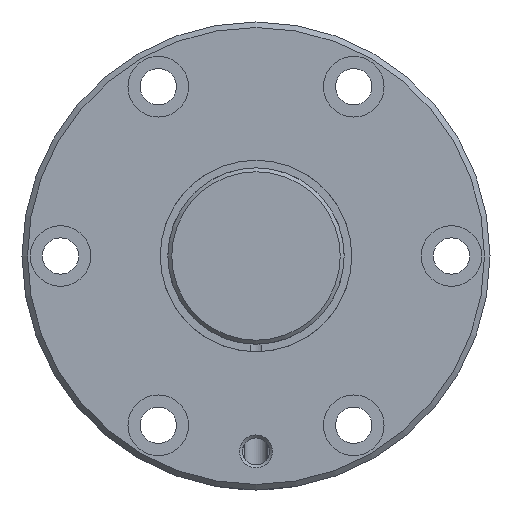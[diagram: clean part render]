
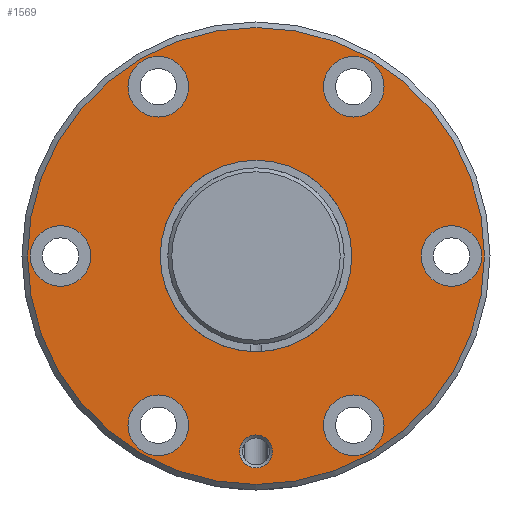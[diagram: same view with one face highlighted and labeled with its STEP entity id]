
A CAD part, left-side view. The second image highlights one B-rep face of the part: STEP entity #1569.
In plain terms, the highlighted planar face has unit normal (-1, 0, 0).
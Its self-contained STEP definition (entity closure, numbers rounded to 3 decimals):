
#267=ORIENTED_EDGE('',*,*,#629,.T.);
#268=ORIENTED_EDGE('',*,*,#661,.T.);
#269=ORIENTED_EDGE('',*,*,#662,.T.);
#270=ORIENTED_EDGE('',*,*,#663,.T.);
#271=ORIENTED_EDGE('',*,*,#664,.T.);
#272=ORIENTED_EDGE('',*,*,#665,.T.);
#273=ORIENTED_EDGE('',*,*,#666,.T.);
#274=ORIENTED_EDGE('',*,*,#667,.T.);
#275=ORIENTED_EDGE('',*,*,#660,.F.);
#629=EDGE_CURVE('',#830,#830,#974,.T.);
#660=EDGE_CURVE('',#861,#861,#977,.T.);
#661=EDGE_CURVE('',#862,#862,#978,.F.);
#662=EDGE_CURVE('',#863,#863,#979,.T.);
#663=EDGE_CURVE('',#864,#864,#980,.T.);
#664=EDGE_CURVE('',#865,#865,#981,.T.);
#665=EDGE_CURVE('',#866,#866,#982,.T.);
#666=EDGE_CURVE('',#867,#867,#983,.T.);
#667=EDGE_CURVE('',#868,#868,#984,.T.);
#830=VERTEX_POINT('',#2611);
#861=VERTEX_POINT('',#2757);
#862=VERTEX_POINT('',#2760);
#863=VERTEX_POINT('',#2762);
#864=VERTEX_POINT('',#2764);
#865=VERTEX_POINT('',#2766);
#866=VERTEX_POINT('',#2768);
#867=VERTEX_POINT('',#2770);
#868=VERTEX_POINT('',#2772);
#974=CIRCLE('',#1714,17.4);
#977=CIRCLE('',#1721,41.5);
#978=CIRCLE('',#1723,5.5);
#979=CIRCLE('',#1724,3.);
#980=CIRCLE('',#1725,5.5);
#981=CIRCLE('',#1726,5.5);
#982=CIRCLE('',#1727,5.5);
#983=CIRCLE('',#1728,5.5);
#984=CIRCLE('',#1729,5.5);
#1132=EDGE_LOOP('',(#267));
#1133=EDGE_LOOP('',(#268));
#1134=EDGE_LOOP('',(#269));
#1135=EDGE_LOOP('',(#270));
#1136=EDGE_LOOP('',(#271));
#1137=EDGE_LOOP('',(#272));
#1138=EDGE_LOOP('',(#273));
#1139=EDGE_LOOP('',(#274));
#1140=EDGE_LOOP('',(#275));
#1334=FACE_BOUND('',#1132,.T.);
#1335=FACE_BOUND('',#1133,.T.);
#1336=FACE_BOUND('',#1134,.T.);
#1337=FACE_BOUND('',#1135,.T.);
#1338=FACE_BOUND('',#1136,.T.);
#1339=FACE_BOUND('',#1137,.T.);
#1340=FACE_BOUND('',#1138,.T.);
#1341=FACE_BOUND('',#1139,.T.);
#1342=FACE_BOUND('',#1140,.T.);
#1507=PLANE('',#1722);
#1569=ADVANCED_FACE('',(#1334,#1335,#1336,#1337,#1338,#1339,#1340,#1341,
#1342),#1507,.T.);
#1714=AXIS2_PLACEMENT_3D('',#2610,#1994,#1995);
#1721=AXIS2_PLACEMENT_3D('',#2756,#2028,#2029);
#1722=AXIS2_PLACEMENT_3D('',#2758,#2030,#2031);
#1723=AXIS2_PLACEMENT_3D('',#2759,#2032,#2033);
#1724=AXIS2_PLACEMENT_3D('',#2761,#2034,#2035);
#1725=AXIS2_PLACEMENT_3D('',#2763,#2036,#2037);
#1726=AXIS2_PLACEMENT_3D('',#2765,#2038,#2039);
#1727=AXIS2_PLACEMENT_3D('',#2767,#2040,#2041);
#1728=AXIS2_PLACEMENT_3D('',#2769,#2042,#2043);
#1729=AXIS2_PLACEMENT_3D('',#2771,#2044,#2045);
#1994=DIRECTION('',(1.,0.,0.));
#1995=DIRECTION('',(0.,0.,-1.));
#2028=DIRECTION('',(1.,0.,0.));
#2029=DIRECTION('',(0.,0.,-1.));
#2030=DIRECTION('',(-1.,0.,0.));
#2031=DIRECTION('',(0.,0.,1.));
#2032=DIRECTION('',(-1.,0.,0.));
#2033=DIRECTION('',(0.,0.,1.));
#2034=DIRECTION('',(1.,0.,0.));
#2035=DIRECTION('',(0.,0.,-1.));
#2036=DIRECTION('',(1.,0.,0.));
#2037=DIRECTION('',(0.,0.,-1.));
#2038=DIRECTION('',(1.,0.,0.));
#2039=DIRECTION('',(0.,0.,-1.));
#2040=DIRECTION('',(1.,0.,0.));
#2041=DIRECTION('',(0.,0.,-1.));
#2042=DIRECTION('',(1.,0.,0.));
#2043=DIRECTION('',(0.,0.,-1.));
#2044=DIRECTION('',(1.,0.,0.));
#2045=DIRECTION('',(0.,0.,-1.));
#2610=CARTESIAN_POINT('',(0.,0.,0.));
#2611=CARTESIAN_POINT('',(0.,0.,-17.4));
#2756=CARTESIAN_POINT('',(0.,0.,0.));
#2757=CARTESIAN_POINT('',(0.,0.,-41.5));
#2758=CARTESIAN_POINT('',(0.,41.5,0.));
#2759=CARTESIAN_POINT('',(0.,35.5,0.));
#2760=CARTESIAN_POINT('',(0.,35.5,5.5));
#2761=CARTESIAN_POINT('',(0.,0.,-35.5));
#2762=CARTESIAN_POINT('',(0.,0.,-38.5));
#2763=CARTESIAN_POINT('',(0.,17.75,30.744));
#2764=CARTESIAN_POINT('',(0.,17.75,25.244));
#2765=CARTESIAN_POINT('',(0.,-17.75,-30.744));
#2766=CARTESIAN_POINT('',(0.,-17.75,-36.244));
#2767=CARTESIAN_POINT('',(0.,-17.75,30.744));
#2768=CARTESIAN_POINT('',(0.,-17.75,25.244));
#2769=CARTESIAN_POINT('',(0.,17.75,-30.744));
#2770=CARTESIAN_POINT('',(0.,17.75,-36.244));
#2771=CARTESIAN_POINT('',(0.,-35.5,0.));
#2772=CARTESIAN_POINT('',(0.,-35.5,-5.5));
